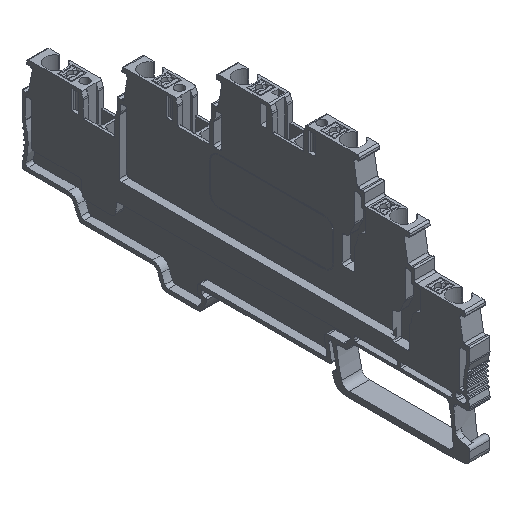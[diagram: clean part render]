
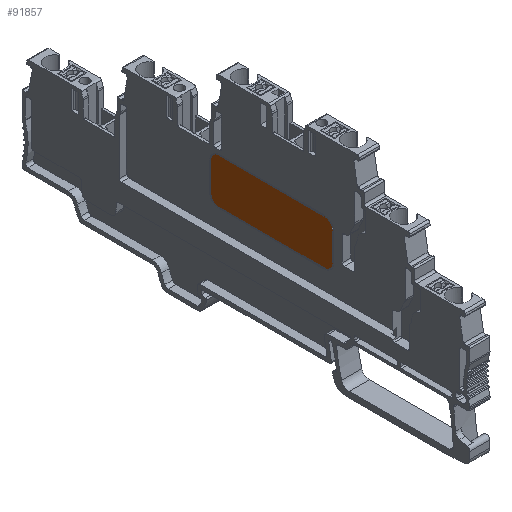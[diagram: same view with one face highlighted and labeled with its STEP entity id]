
A CAD part, isometric view. The second image highlights one B-rep face of the part: STEP entity #91857.
In plain terms, the highlighted planar face has unit normal (-1, 0, 0).
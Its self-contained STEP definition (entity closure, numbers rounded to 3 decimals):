
#91857 = ADVANCED_FACE('',(#91858),#91873,.F.);
#91858 = FACE_BOUND('',#91859,.T.);
#91859 = EDGE_LOOP('',(#91860,#91884,#91900,#91917,#91933,#91950,#91966,
    #91983));
#91860 = ORIENTED_EDGE('',*,*,#91861,.F.);
#91861 = EDGE_CURVE('',#91862,#91864,#91866,.T.);
#91862 = VERTEX_POINT('',#91863);
#91863 = CARTESIAN_POINT('',(74.3,-0.525,38.7));
#91864 = VERTEX_POINT('',#91865);
#91865 = CARTESIAN_POINT('',(74.3,-2.825,36.4));
#91866 = SURFACE_CURVE('',#91867,(#91872),.PCURVE_S1.);
#91867 = CIRCLE('',#91868,2.3);
#91868 = AXIS2_PLACEMENT_3D('',#91869,#91870,#91871);
#91869 = CARTESIAN_POINT('',(74.3,-0.525,36.4));
#91870 = DIRECTION('',(1.,0.,0.));
#91871 = DIRECTION('',(0.,-1.,0.));
#91872 = PCURVE('',#91873,#91878);
#91873 = PLANE('',#91874);
#91874 = AXIS2_PLACEMENT_3D('',#91875,#91876,#91877);
#91875 = CARTESIAN_POINT('',(74.3,14.154,17.25));
#91876 = DIRECTION('',(1.,0.,0.));
#91877 = DIRECTION('',(0.,-1.,0.));
#91878 = DEFINITIONAL_REPRESENTATION('',(#91879),#91883);
#91879 = CIRCLE('',#91880,2.3);
#91880 = AXIS2_PLACEMENT_2D('',#91881,#91882);
#91881 = CARTESIAN_POINT('',(14.679,-19.15));
#91882 = DIRECTION('',(1.,0.));
#91883 = ( GEOMETRIC_REPRESENTATION_CONTEXT(2) 
PARAMETRIC_REPRESENTATION_CONTEXT() REPRESENTATION_CONTEXT('2D SPACE',''
  ) );
#91884 = ORIENTED_EDGE('',*,*,#91885,.F.);
#91885 = EDGE_CURVE('',#91886,#91862,#91888,.T.);
#91886 = VERTEX_POINT('',#91887);
#91887 = CARTESIAN_POINT('',(74.3,26.475,38.7));
#91888 = SURFACE_CURVE('',#91889,(#91893),.PCURVE_S1.);
#91889 = LINE('',#91890,#91891);
#91890 = CARTESIAN_POINT('',(74.3,26.475,38.7));
#91891 = VECTOR('',#91892,1.);
#91892 = DIRECTION('',(0.,-1.,0.));
#91893 = PCURVE('',#91873,#91894);
#91894 = DEFINITIONAL_REPRESENTATION('',(#91895),#91899);
#91895 = LINE('',#91896,#91897);
#91896 = CARTESIAN_POINT('',(-12.321,-21.45));
#91897 = VECTOR('',#91898,1.);
#91898 = DIRECTION('',(1.,0.));
#91899 = ( GEOMETRIC_REPRESENTATION_CONTEXT(2) 
PARAMETRIC_REPRESENTATION_CONTEXT() REPRESENTATION_CONTEXT('2D SPACE',''
  ) );
#91900 = ORIENTED_EDGE('',*,*,#91901,.F.);
#91901 = EDGE_CURVE('',#91902,#91886,#91904,.T.);
#91902 = VERTEX_POINT('',#91903);
#91903 = CARTESIAN_POINT('',(74.3,28.775,36.4));
#91904 = SURFACE_CURVE('',#91905,(#91910),.PCURVE_S1.);
#91905 = CIRCLE('',#91906,2.3);
#91906 = AXIS2_PLACEMENT_3D('',#91907,#91908,#91909);
#91907 = CARTESIAN_POINT('',(74.3,26.475,36.4));
#91908 = DIRECTION('',(1.,0.,0.));
#91909 = DIRECTION('',(0.,-1.,0.));
#91910 = PCURVE('',#91873,#91911);
#91911 = DEFINITIONAL_REPRESENTATION('',(#91912),#91916);
#91912 = CIRCLE('',#91913,2.3);
#91913 = AXIS2_PLACEMENT_2D('',#91914,#91915);
#91914 = CARTESIAN_POINT('',(-12.321,-19.15));
#91915 = DIRECTION('',(1.,0.));
#91916 = ( GEOMETRIC_REPRESENTATION_CONTEXT(2) 
PARAMETRIC_REPRESENTATION_CONTEXT() REPRESENTATION_CONTEXT('2D SPACE',''
  ) );
#91917 = ORIENTED_EDGE('',*,*,#91918,.F.);
#91918 = EDGE_CURVE('',#91919,#91902,#91921,.T.);
#91919 = VERTEX_POINT('',#91920);
#91920 = CARTESIAN_POINT('',(74.3,28.775,29.4));
#91921 = SURFACE_CURVE('',#91922,(#91926),.PCURVE_S1.);
#91922 = LINE('',#91923,#91924);
#91923 = CARTESIAN_POINT('',(74.3,28.775,29.4));
#91924 = VECTOR('',#91925,1.);
#91925 = DIRECTION('',(0.,0.,1.));
#91926 = PCURVE('',#91873,#91927);
#91927 = DEFINITIONAL_REPRESENTATION('',(#91928),#91932);
#91928 = LINE('',#91929,#91930);
#91929 = CARTESIAN_POINT('',(-14.621,-12.15));
#91930 = VECTOR('',#91931,1.);
#91931 = DIRECTION('',(0.,-1.));
#91932 = ( GEOMETRIC_REPRESENTATION_CONTEXT(2) 
PARAMETRIC_REPRESENTATION_CONTEXT() REPRESENTATION_CONTEXT('2D SPACE',''
  ) );
#91933 = ORIENTED_EDGE('',*,*,#91934,.F.);
#91934 = EDGE_CURVE('',#91935,#91919,#91937,.T.);
#91935 = VERTEX_POINT('',#91936);
#91936 = CARTESIAN_POINT('',(74.3,26.475,27.1));
#91937 = SURFACE_CURVE('',#91938,(#91943),.PCURVE_S1.);
#91938 = CIRCLE('',#91939,2.3);
#91939 = AXIS2_PLACEMENT_3D('',#91940,#91941,#91942);
#91940 = CARTESIAN_POINT('',(74.3,26.475,29.4));
#91941 = DIRECTION('',(1.,0.,0.));
#91942 = DIRECTION('',(0.,-1.,0.));
#91943 = PCURVE('',#91873,#91944);
#91944 = DEFINITIONAL_REPRESENTATION('',(#91945),#91949);
#91945 = CIRCLE('',#91946,2.3);
#91946 = AXIS2_PLACEMENT_2D('',#91947,#91948);
#91947 = CARTESIAN_POINT('',(-12.321,-12.15));
#91948 = DIRECTION('',(1.,0.));
#91949 = ( GEOMETRIC_REPRESENTATION_CONTEXT(2) 
PARAMETRIC_REPRESENTATION_CONTEXT() REPRESENTATION_CONTEXT('2D SPACE',''
  ) );
#91950 = ORIENTED_EDGE('',*,*,#91951,.F.);
#91951 = EDGE_CURVE('',#91952,#91935,#91954,.T.);
#91952 = VERTEX_POINT('',#91953);
#91953 = CARTESIAN_POINT('',(74.3,-0.525,27.1));
#91954 = SURFACE_CURVE('',#91955,(#91959),.PCURVE_S1.);
#91955 = LINE('',#91956,#91957);
#91956 = CARTESIAN_POINT('',(74.3,-0.525,27.1));
#91957 = VECTOR('',#91958,1.);
#91958 = DIRECTION('',(0.,1.,0.));
#91959 = PCURVE('',#91873,#91960);
#91960 = DEFINITIONAL_REPRESENTATION('',(#91961),#91965);
#91961 = LINE('',#91962,#91963);
#91962 = CARTESIAN_POINT('',(14.679,-9.85));
#91963 = VECTOR('',#91964,1.);
#91964 = DIRECTION('',(-1.,0.));
#91965 = ( GEOMETRIC_REPRESENTATION_CONTEXT(2) 
PARAMETRIC_REPRESENTATION_CONTEXT() REPRESENTATION_CONTEXT('2D SPACE',''
  ) );
#91966 = ORIENTED_EDGE('',*,*,#91967,.F.);
#91967 = EDGE_CURVE('',#91968,#91952,#91970,.T.);
#91968 = VERTEX_POINT('',#91969);
#91969 = CARTESIAN_POINT('',(74.3,-2.825,29.4));
#91970 = SURFACE_CURVE('',#91971,(#91976),.PCURVE_S1.);
#91971 = CIRCLE('',#91972,2.3);
#91972 = AXIS2_PLACEMENT_3D('',#91973,#91974,#91975);
#91973 = CARTESIAN_POINT('',(74.3,-0.525,29.4));
#91974 = DIRECTION('',(1.,0.,0.));
#91975 = DIRECTION('',(0.,-1.,0.));
#91976 = PCURVE('',#91873,#91977);
#91977 = DEFINITIONAL_REPRESENTATION('',(#91978),#91982);
#91978 = CIRCLE('',#91979,2.3);
#91979 = AXIS2_PLACEMENT_2D('',#91980,#91981);
#91980 = CARTESIAN_POINT('',(14.679,-12.15));
#91981 = DIRECTION('',(1.,0.));
#91982 = ( GEOMETRIC_REPRESENTATION_CONTEXT(2) 
PARAMETRIC_REPRESENTATION_CONTEXT() REPRESENTATION_CONTEXT('2D SPACE',''
  ) );
#91983 = ORIENTED_EDGE('',*,*,#91984,.F.);
#91984 = EDGE_CURVE('',#91864,#91968,#91985,.T.);
#91985 = SURFACE_CURVE('',#91986,(#91990),.PCURVE_S1.);
#91986 = LINE('',#91987,#91988);
#91987 = CARTESIAN_POINT('',(74.3,-2.825,36.4));
#91988 = VECTOR('',#91989,1.);
#91989 = DIRECTION('',(0.,0.,-1.));
#91990 = PCURVE('',#91873,#91991);
#91991 = DEFINITIONAL_REPRESENTATION('',(#91992),#91996);
#91992 = LINE('',#91993,#91994);
#91993 = CARTESIAN_POINT('',(16.979,-19.15));
#91994 = VECTOR('',#91995,1.);
#91995 = DIRECTION('',(0.,1.));
#91996 = ( GEOMETRIC_REPRESENTATION_CONTEXT(2) 
PARAMETRIC_REPRESENTATION_CONTEXT() REPRESENTATION_CONTEXT('2D SPACE',''
  ) );
